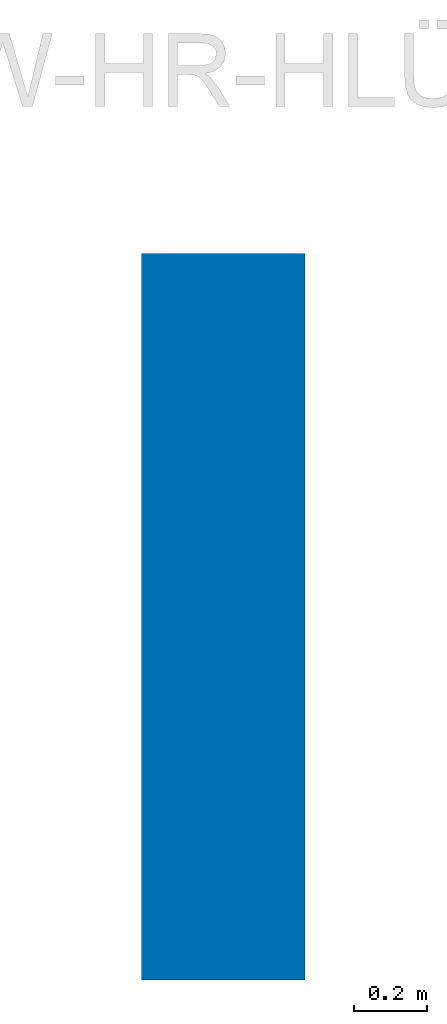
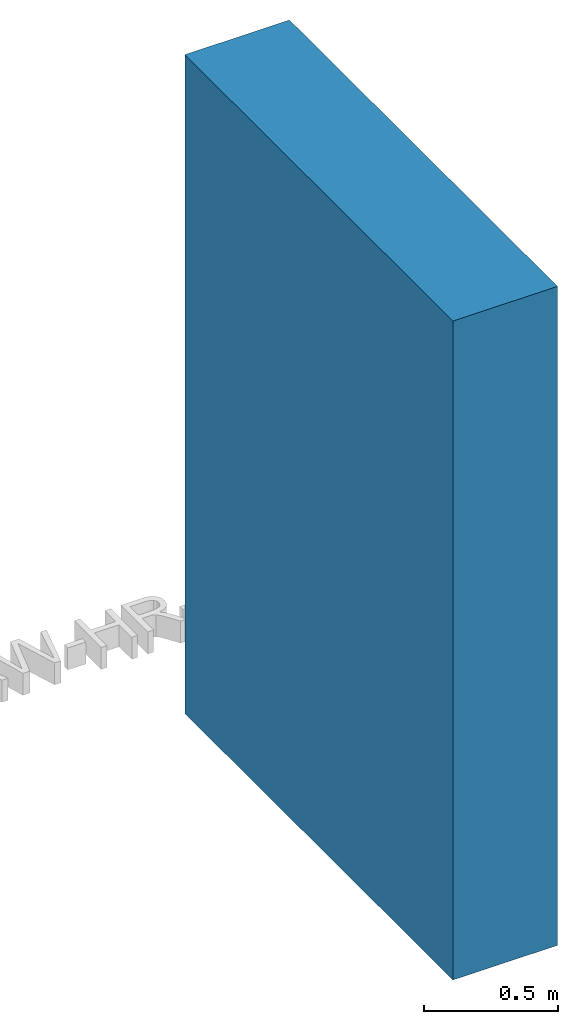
# Not in any storey, part 1 of 2: 1 wall.
"""IFC2X3 model written with IfcOpenShell, lengths in metres."""

from ifc_helpers import new_model, entity, si_unit, converted_unit, derived_unit, direction, frame, frame_2d, origin, place, context, subcontext, project, spatial, rectangle, extrude, material, layer, layer_set, layer_usage, type_object, element, save


model = new_model("IFC2X3")

# Units and contexts
model_context = context("Model", 3, precision=1e-05, world=origin(), true_north=direction((6.123031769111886e-17, 1.0)))
body_context = subcontext(model_context, "Body", "Model", "MODEL_VIEW")
ifc_project = project(units=[si_unit("LENGTHUNIT", "METRE"), si_unit("AREAUNIT", "SQUARE_METRE"), si_unit("VOLUMEUNIT", "CUBIC_METRE"), converted_unit("PLANEANGLEUNIT", "DEGREE", entity("IfcRatioMeasure", 0.017453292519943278), si_unit("PLANEANGLEUNIT", "RADIAN"), dimensions=[0, 0, 0, 0, 0, 0, 0]), si_unit("MASSUNIT", "GRAM", prefix="KILO"), derived_unit("MASSDENSITYUNIT", [(si_unit("MASSUNIT", "GRAM", prefix="KILO"), 1), (si_unit("LENGTHUNIT", "METRE"), -3)]), derived_unit("MOMENTOFINERTIAUNIT", [(si_unit("LENGTHUNIT", "METRE"), 4)]), si_unit("TIMEUNIT", "SECOND"), si_unit("FREQUENCYUNIT", "HERTZ"), si_unit("THERMODYNAMICTEMPERATUREUNIT", "DEGREE_CELSIUS"), derived_unit("THERMALTRANSMITTANCEUNIT", [(si_unit("MASSUNIT", "GRAM", prefix="KILO"), 1), (si_unit("THERMODYNAMICTEMPERATUREUNIT", "KELVIN"), -1), (si_unit("TIMEUNIT", "SECOND"), -3)]), derived_unit("VOLUMETRICFLOWRATEUNIT", [(si_unit("LENGTHUNIT", "METRE"), 3), (si_unit("TIMEUNIT", "SECOND"), -1)]), derived_unit("MASSFLOWRATEUNIT", [(si_unit("MASSUNIT", "GRAM", prefix="KILO"), 1), (si_unit("TIMEUNIT", "SECOND"), -1)]), derived_unit("ROTATIONALFREQUENCYUNIT", [(si_unit("TIMEUNIT", "SECOND"), -1)]), si_unit("ELECTRICCURRENTUNIT", "AMPERE"), si_unit("ELECTRICVOLTAGEUNIT", "VOLT"), si_unit("POWERUNIT", "WATT"), si_unit("FORCEUNIT", "NEWTON", prefix="KILO"), si_unit("ILLUMINANCEUNIT", "LUX"), si_unit("LUMINOUSFLUXUNIT", "LUMEN"), si_unit("LUMINOUSINTENSITYUNIT", "CANDELA"), derived_unit("USERDEFINED", [(si_unit("MASSUNIT", "GRAM", prefix="KILO"), -1), (si_unit("LENGTHUNIT", "METRE"), -2), (si_unit("TIMEUNIT", "SECOND"), 3), (si_unit("LUMINOUSFLUXUNIT", "LUMEN"), 1)]), derived_unit("SOUNDPOWERUNIT", [(si_unit("MASSUNIT", "GRAM", prefix="KILO"), 1), (si_unit("LENGTHUNIT", "METRE"), 2), (si_unit("TIMEUNIT", "SECOND"), -3)]), derived_unit("SOUNDPRESSUREUNIT", [(si_unit("MASSUNIT", "GRAM", prefix="KILO"), 1), (si_unit("LENGTHUNIT", "METRE"), -1), (si_unit("TIMEUNIT", "SECOND"), -2)]), derived_unit("LINEARVELOCITYUNIT", [(si_unit("LENGTHUNIT", "METRE"), 1), (si_unit("TIMEUNIT", "SECOND"), -1)]), si_unit("PRESSUREUNIT", "PASCAL"), derived_unit("USERDEFINED", [(si_unit("LENGTHUNIT", "METRE"), -2), (si_unit("MASSUNIT", "GRAM", prefix="KILO"), 1), (si_unit("TIMEUNIT", "SECOND"), -2)]), derived_unit("LINEARFORCEUNIT", [(si_unit("MASSUNIT", "GRAM", prefix="KILO"), 1), (si_unit("LENGTHUNIT", "METRE"), 1), (si_unit("TIMEUNIT", "SECOND"), -2), (si_unit("LENGTHUNIT", "METRE"), -1)]), derived_unit("PLANARFORCEUNIT", [(si_unit("MASSUNIT", "GRAM", prefix="KILO"), 1), (si_unit("LENGTHUNIT", "METRE"), 1), (si_unit("TIMEUNIT", "SECOND"), -2), (si_unit("LENGTHUNIT", "METRE"), -2)])], contexts=[model_context])

# Site
site_placement = place(None, origin())
site = spatial("IfcSite", under=ifc_project, at=site_placement, Name="Default", CompositionType="ELEMENT")

# Wall
ifc_material_1 = material(Name="fbim_12400515_AT_025_Vollholz_Bretter_Laerche")
ifc_layer_1 = layer(ifc_material_1, 0.019)
ifc_material_2 = material(Name="fbim_14100590_AT_001_Luftschicht")
ifc_layer_2 = layer(ifc_material_2, 0.04)
ifc_material_3 = material(Name="fbim_16101505_AT_001_Gipsfaserplatte_12.5mm")
ifc_layer_3 = layer(ifc_material_3, 0.015)
ifc_material_4 = material(Name="fbim_14104515_AT_090_Zellulose_Einblasdaemmung")
ifc_layer_4 = layer(ifc_material_4, 0.28)
ifc_material_5 = material(Name="fbim_12401520_AT_001_OSB_Platte")
ifc_layer_5 = layer(ifc_material_5, 0.018000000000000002)
ifc_layer_6 = layer(ifc_material_3, 0.0125)
ifc_material_6 = material(Name="fbim_14100505_AT_002_Schafwolle")
ifc_layer_7 = layer(ifc_material_6, 0.04)
ifc_layer_8 = layer(ifc_material_3, 0.0125)
ifc_layer_9 = layer(ifc_material_3, 0.0125)
ifc_material_7 = material(Name="fbim_16106515_AT_001_Gipsspachtel")
ifc_layer_10 = layer(ifc_material_7, 0.001)
ifc_layer_set = layer_set([ifc_layer_1, ifc_layer_2, ifc_layer_3, ifc_layer_4, ifc_layer_5, ifc_layer_6, ifc_layer_7, ifc_layer_8, ifc_layer_9, ifc_layer_10], Name="Basiswand:fbimSg_Wall_lb_WOD_vis_at_NTR_natuREbuilt_AW-HR-HLÜ-VS_GK4")
ifc_layer_usage = layer_usage(ifc_layer_set, "AXIS2", "NEGATIVE", 0.22524999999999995)
wall_type = type_object("IfcWallType", Name="Basiswand:fbimSg_Wall_lb_WOD_vis_at_NTR_natuREbuilt_AW-HR-HLÜ-VS_GK4", PredefinedType="STANDARD", material=ifc_layer_set)
wall_placement = place(site_placement, frame((7.9274566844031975, 23.802559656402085, 0.0), z_axis=(0.0, 0.0, 1.0), x_axis=(0.0, -1.0, 0.0)))
element("IfcWallStandardCase", 1, at=wall_placement, inside=site, type_object=wall_type, material=ifc_layer_usage, Name="Basiswand:fbimSg_Wall_lb_WOD_vis_at_NTR_natuREbuilt_AW-HR-HLÜ-VS_GK4", ObjectType="Basiswand:fbimSg_Wall_lb_WOD_vis_at_NTR_natuREbuilt_AW-HR-HLÜ-VS_GK4", context=body_context, shape_type="SweptSolid", body=[
    extrude(rectangle(XDim=2.0, YDim=0.4504999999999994, at=frame_2d((1.0, 0.0), x_axis=(-1.0, 0.0))), origin(), (0.0, 0.0, 1.0), 3.0000000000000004),
])

save(model, "model.ifc")
